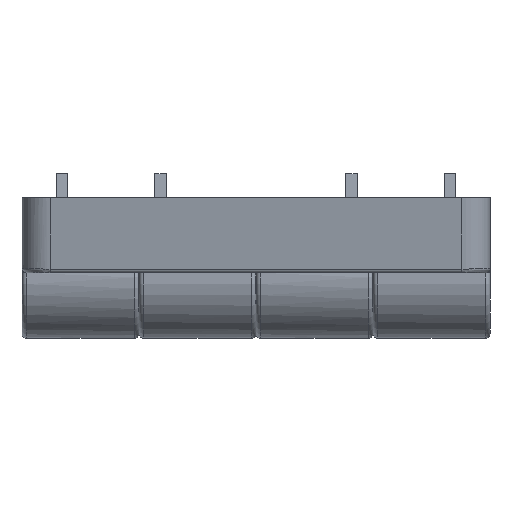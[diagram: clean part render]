
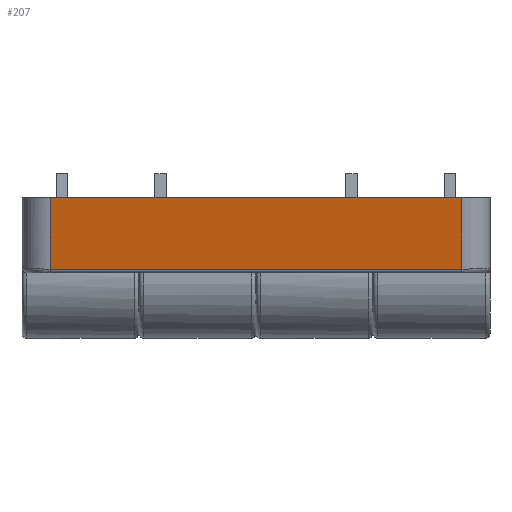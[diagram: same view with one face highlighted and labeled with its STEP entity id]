
A CAD part, left-side view. The second image highlights one B-rep face of the part: STEP entity #207.
In plain terms, the highlighted planar face has unit normal (-0.983, 0, -0.184) as drawn and (-0.983, 0.184, 0) by its records, which use the part's own axes.
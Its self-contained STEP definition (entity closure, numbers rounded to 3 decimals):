
#35 = EDGE_CURVE ( 'NONE', #2140, #1644, #930, .T. ) ;
#129 = CARTESIAN_POINT ( 'NONE',  ( -29.576, -0.408, 25. ) ) ;
#207 = ADVANCED_FACE ( 'NONE', ( #1583 ), #1889, .F. ) ;
#311 = CARTESIAN_POINT ( 'NONE',  ( -31., -8., 25. ) ) ;
#524 = LINE ( 'NONE', #705, #1305 ) ;
#615 = LINE ( 'NONE', #311, #791 ) ;
#617 = EDGE_CURVE ( 'NONE', #2003, #1800, #615, .T. ) ;
#678 = CARTESIAN_POINT ( 'NONE',  ( -31., -8., -22. ) ) ;
#705 = CARTESIAN_POINT ( 'NONE',  ( -29.5, 0., 22. ) ) ;
#707 = CARTESIAN_POINT ( 'NONE',  ( -29.576, -0.408, 22. ) ) ;
#726 = ORIENTED_EDGE ( 'NONE', *, *, #1745, .T. ) ;
#753 = EDGE_LOOP ( 'NONE', ( #726, #2063, #823, #1251 ) ) ;
#791 = VECTOR ( 'NONE', #1876, 1000. ) ;
#823 = ORIENTED_EDGE ( 'NONE', *, *, #2082, .T. ) ;
#845 = CARTESIAN_POINT ( 'NONE',  ( -31., -8., 22. ) ) ;
#882 = CARTESIAN_POINT ( 'NONE',  ( -31., -8., 25. ) ) ;
#930 = LINE ( 'NONE', #129, #1798 ) ;
#1025 = DIRECTION ( 'NONE',  ( -0.184, -0.983, 0. ) ) ;
#1126 = LINE ( 'NONE', #678, #2005 ) ;
#1251 = ORIENTED_EDGE ( 'NONE', *, *, #617, .F. ) ;
#1305 = VECTOR ( 'NONE', #1865, 1000. ) ;
#1390 = CARTESIAN_POINT ( 'NONE',  ( -29.576, -0.408, -22. ) ) ;
#1457 = AXIS2_PLACEMENT_3D ( 'NONE', #882, #1560, #2050 ) ;
#1560 = DIRECTION ( 'NONE',  ( 0.983, -0.184, 0. ) ) ;
#1583 = FACE_OUTER_BOUND ( 'NONE', #753, .T. ) ;
#1644 = VERTEX_POINT ( 'NONE', #1390 ) ;
#1745 = EDGE_CURVE ( 'NONE', #2003, #2140, #524, .T. ) ;
#1798 = VECTOR ( 'NONE', #2194, 1000. ) ;
#1800 = VERTEX_POINT ( 'NONE', #2060 ) ;
#1865 = DIRECTION ( 'NONE',  ( 0.184, 0.983, 0. ) ) ;
#1876 = DIRECTION ( 'NONE',  ( 0., 0., -1. ) ) ;
#1889 = PLANE ( 'NONE',  #1457 ) ;
#2003 = VERTEX_POINT ( 'NONE', #845 ) ;
#2005 = VECTOR ( 'NONE', #1025, 1000. ) ;
#2050 = DIRECTION ( 'NONE',  ( 0.184, 0.983, 0. ) ) ;
#2060 = CARTESIAN_POINT ( 'NONE',  ( -31., -8., -22. ) ) ;
#2063 = ORIENTED_EDGE ( 'NONE', *, *, #35, .T. ) ;
#2082 = EDGE_CURVE ( 'NONE', #1644, #1800, #1126, .T. ) ;
#2140 = VERTEX_POINT ( 'NONE', #707 ) ;
#2194 = DIRECTION ( 'NONE',  ( 0., 0., -1. ) ) ;
